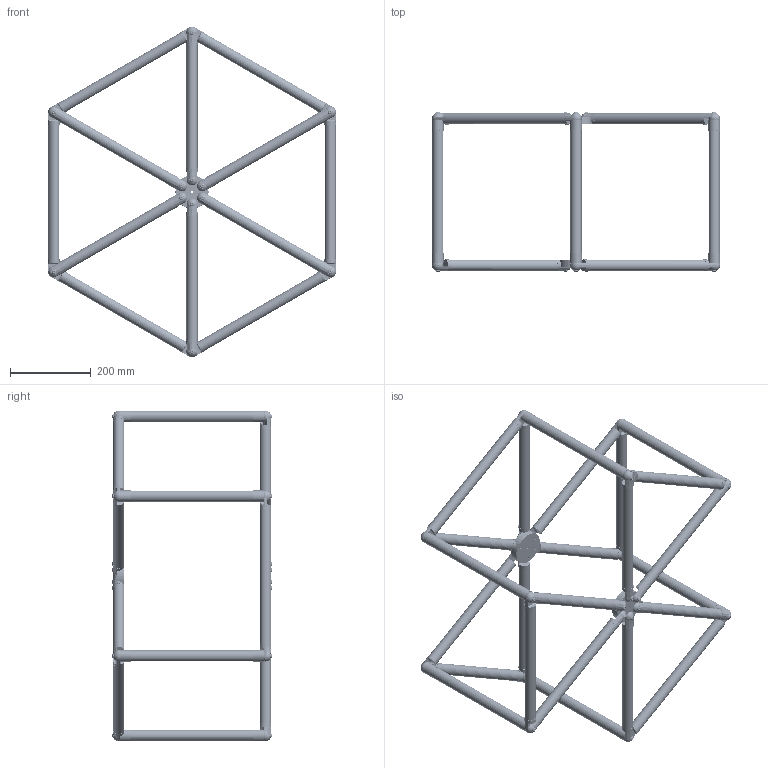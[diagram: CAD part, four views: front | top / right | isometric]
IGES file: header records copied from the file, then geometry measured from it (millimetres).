
Start section: SolidWorks IGES file using analytic representation for surfaces
Global section: file name: \\SERVER3\Design\_New Design Drive Folder List\_Design Vault\AAI\Modular Round Tube Connectors\Solidworks Models\Demonstrations\15. Six Sided Frame With Puck\Six Sided Frame With Puck.IGS; native system: SolidWorks 2013; preprocessor: SolidWorks 2013; author: tbraun; date: 131210.092051; units: inch
Bounding box: 715.19 x 396.7 x 821.41 mm (x, y, z)
Surface area: 1852899.9 mm2 (no closed solid volume)
Topology: 0 solids, 0 shells, 5912 faces, 84712 edges, 84628 vertices
Faces by surface type: revolution 5032, bspline 880
